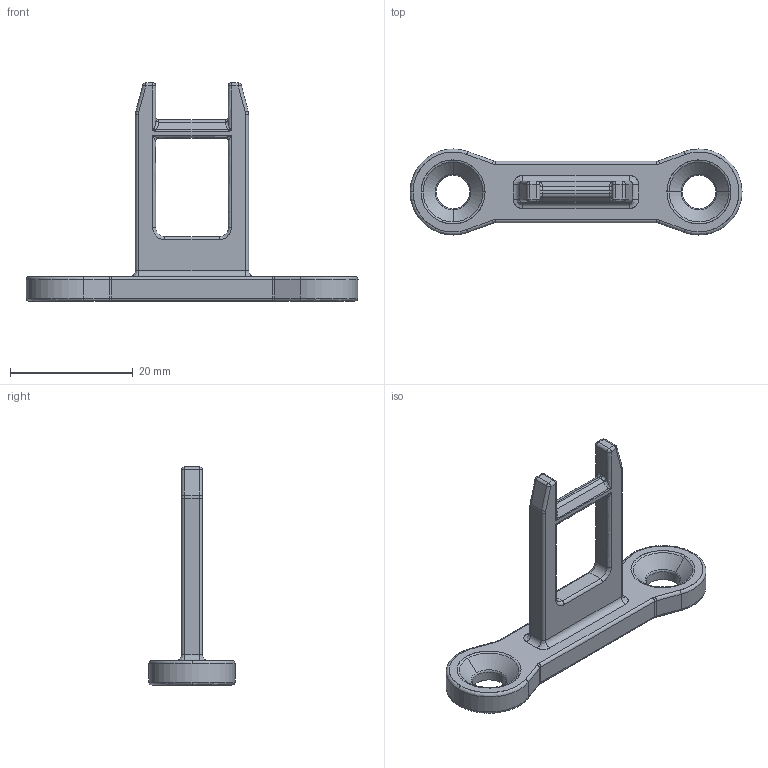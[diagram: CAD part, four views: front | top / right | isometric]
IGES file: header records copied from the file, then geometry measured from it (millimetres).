
Start section: SolidWorks IGES file using analytic representation for surfaces
Global section: file name: Q:\GROUPS\WAU_SBC_ITEC\ENGENHARIA\FERRAMENTARIA\EM ANDAMENTO - DESENHOS CHAVES - LEANDRO\ACIS-MSP\ACIS-MSP.IGS; native system: SolidWorks 2015; preprocessor: SolidWorks 2015; author: silval; date: 151027.172638; units: millimetre
Bounding box: 54 x 14 x 35.5 mm (x, y, z)
Surface area: 2590.7 mm2 (no closed solid volume)
Topology: 0 solids, 0 shells, 158 faces, 1000 edges, 988 vertices
Faces by surface type: bspline 87, revolution 71
